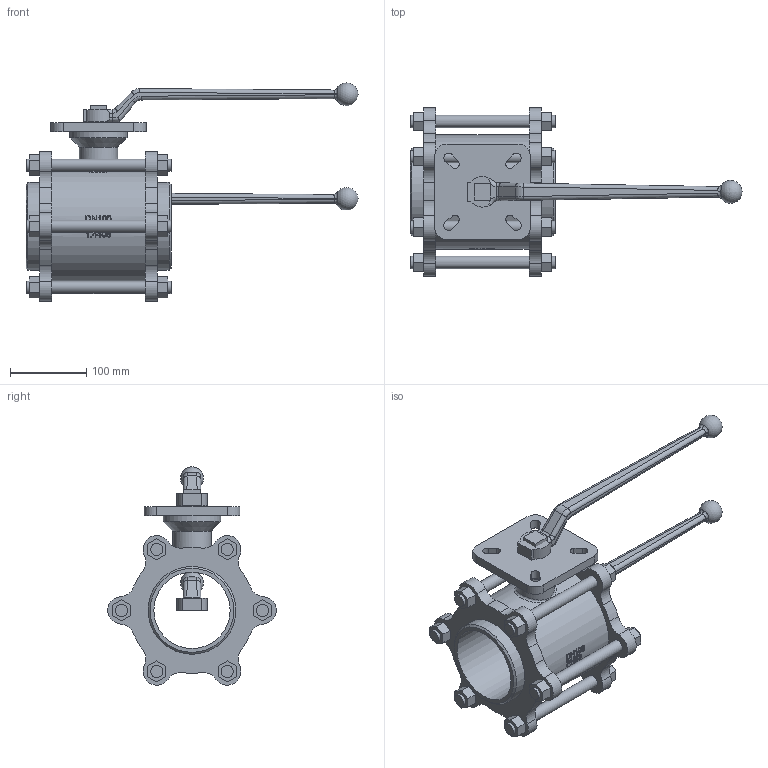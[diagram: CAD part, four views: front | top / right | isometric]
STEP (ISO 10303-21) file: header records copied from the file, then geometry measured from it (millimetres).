
FILE_DESCRIPTION( ( 'Unknown' ), '1' );
FILE_NAME( 'W:/ECCUA/ROOTSI BPS 3D vidinad/Kuulkraanid/Roostevaba kuulkraanid/Ball valve BPS 2421/Ball valve with hand lever BPS/STEP format/BPS 2421100 ball valve DN100.stp', 'Unknown', ( 'Unknown' ), ( 'Unknown' ), 'PSStep 10.1', 'Unknown', ' ' );
FILE_SCHEMA( ( 'AUTOMOTIVE_DESIGN { 1 0 10303 214 1 1 1 1 }' ) );
Length unit declared in the file: millimetre
Products named in the file (3): Assem1; Hand lever for ball valve DN65-100 BPS 2420-21; BPS 2421100 ball valve DN100
Bounding box: 435 x 220.75 x 285.99 mm (x, y, z)
Volume: 5132026.9 mm3; surface area: 656058.9 mm2
Topology: 4 solids, 4 shells, 758 faces, 1890 edges, 1250 vertices
Faces by surface type: plane 384, cylinder 252, bspline 102, torus 12, cone 6, sphere 2
Full cylindrical faces by diameter (mm): 16 x36, 50 x2, 75 x2, 100 x2, 115 x4, 150 x2
Entity records: 21915 total; most frequent: CARTESIAN_POINT 10519, ORIENTED_EDGE 1790, DIRECTION 1469, EDGE_CURVE 895, VERTEX_POINT 613, AXIS2_PLACEMENT_3D 552, EDGE_LOOP 494, FACE_OUTER_BOUND 413
